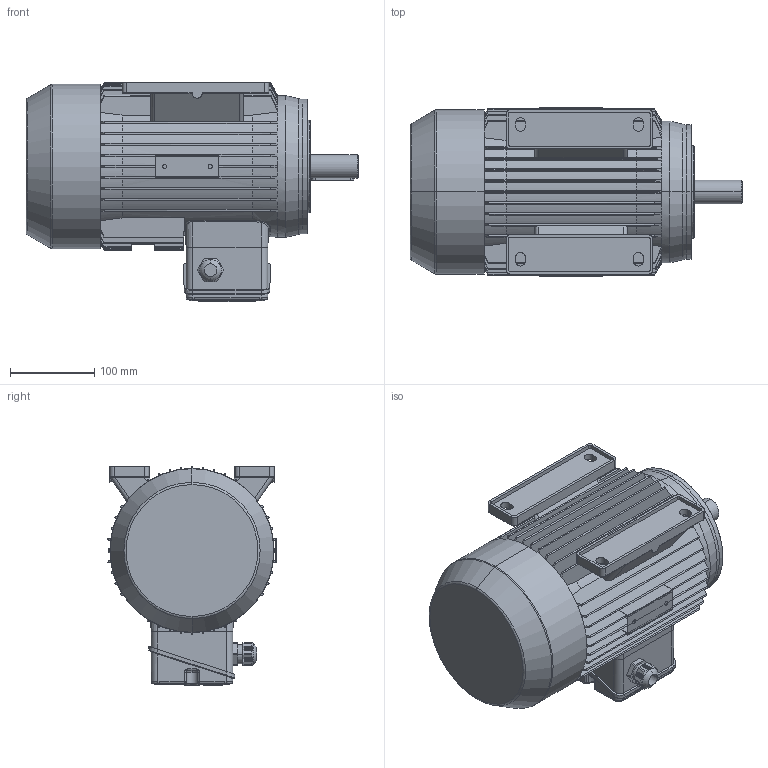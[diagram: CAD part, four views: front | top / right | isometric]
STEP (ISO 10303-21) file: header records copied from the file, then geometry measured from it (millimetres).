
FILE_DESCRIPTION (( 'STEP AP214' ), '1' );
FILE_NAME ('MAP100L2A IM2141 FT130.STEP', '2020-12-22T07:47:59', ( '' ), ( '' ), 'SwSTEP 2.0', 'SolidWorks 2018', '' );
FILE_SCHEMA (( 'AUTOMOTIVE_DESIGN' ));
Length unit declared in the file: millimetre
Products named in the file (1): MAP100L2A IM2141 FT130
Bounding box: 394 x 200 x 260.5 mm (x, y, z)
Volume: 9072672.8 mm3; surface area: 584461.8 mm2
Topology: 2 solids, 7 shells, 1214 faces, 3200 edges, 2030 vertices
Faces by surface type: plane 557, cylinder 307, cone 164, bspline 123, torus 61, sphere 2
Entity records: 46049 total; most frequent: CARTESIAN_POINT 17764, ORIENTED_EDGE 6376, DIRECTION 5268, EDGE_CURVE 3188, VERTEX_POINT 2030, AXIS2_PLACEMENT_3D 1845, VECTOR 1578, LINE 1578
